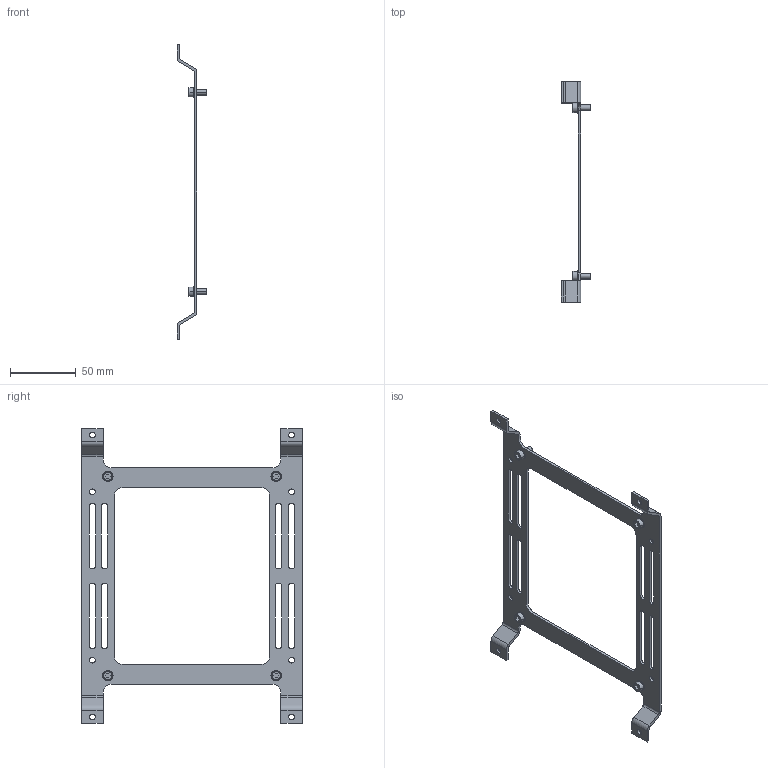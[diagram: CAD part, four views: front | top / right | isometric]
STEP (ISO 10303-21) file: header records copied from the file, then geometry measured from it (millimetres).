
FILE_DESCRIPTION((''),'2;1');
FILE_NAME('1_PMX_WALL_BRACKET_ST_SW0001','2018-10-04T',('mellertr'),(''),'CREO PARAMETRIC BY PTC INC, 2017480','CREO PARAMETRIC BY PTC INC, 2017480','');
FILE_SCHEMA(('CONFIG_CONTROL_DESIGN'));
Length unit declared in the file: millimetre
Products named in the file (1): 1_PMX_WALL_BRACKET_ST_SW0001
Bounding box: 22.6 x 168.5 x 225 mm (x, y, z)
Volume: 25417.1 mm3; surface area: 30333.5 mm2
Topology: 1 solids, 1 shells, 194 faces, 520 edges, 344 vertices
Faces by surface type: bspline 194
Entity records: 9145 total; most frequent: CARTESIAN_POINT 3728, ORIENTED_EDGE 1040, DIRECTION 728, EDGE_CURVE 520, VERTEX_POINT 344, VECTOR 312, LINE 312, EDGE_LOOP 244
